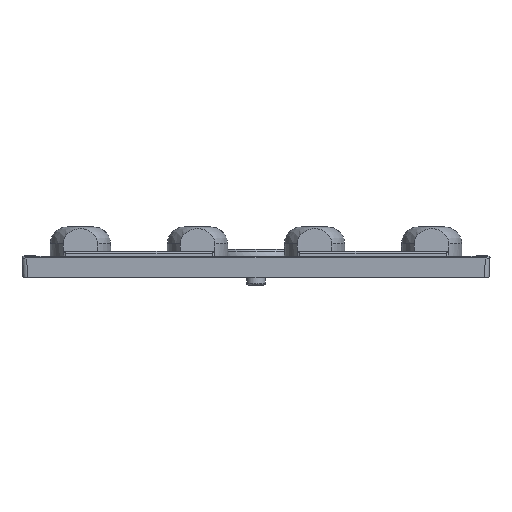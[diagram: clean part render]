
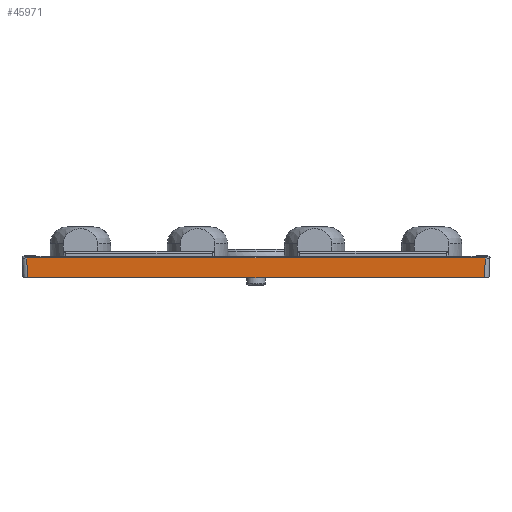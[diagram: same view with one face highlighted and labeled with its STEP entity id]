
A CAD part, front view. The second image highlights one B-rep face of the part: STEP entity #45971.
In plain terms, the highlighted planar face has unit normal (0, -0.999, -0.052).
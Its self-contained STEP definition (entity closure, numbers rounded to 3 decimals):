
#5621=CARTESIAN_POINT('',(24.38,-24.879,0.));
#5622=VERTEX_POINT('',#5621);
#5636=CARTESIAN_POINT('',(-24.38,-24.879,0.));
#5641=DIRECTION('',(1.,0.,0.));
#5646=VECTOR('',#5641,1.);
#5651=LINE('',#5636,#5646);
#5656=CARTESIAN_POINT('',(-24.38,-24.879,0.));
#5657=VERTEX_POINT('',#5656);
#5661=EDGE_CURVE('',#5657,#5622,#5651,.T.);
#45796=CARTESIAN_POINT('',(24.49,-24.989,2.09));
#45797=VERTEX_POINT('',#45796);
#45811=CARTESIAN_POINT('',(24.38,-24.879,0.));
#45816=DIRECTION('',(0.052,-0.052,0.997));
#45821=VECTOR('',#45816,1.);
#45826=LINE('',#45811,#45821);
#45831=EDGE_CURVE('',#5622,#45797,#45826,.T.);
#45861=DIRECTION('',(0.,-0.999,-0.052));
#45866=CARTESIAN_POINT('',(-24.49,-24.989,2.09));
#45871=DIRECTION('',(0.,0.052,-0.999));
#45876=AXIS2_PLACEMENT_3D('',#45866,#45861,#45871);
#45881=PLANE('',#45876);
#45886=ORIENTED_EDGE('',*,*,#45831,.T.);
#45891=CARTESIAN_POINT('',(24.49,-24.989,2.09));
#45896=DIRECTION('',(-1.,0.,0.));
#45901=VECTOR('',#45896,1.);
#45906=LINE('',#45891,#45901);
#45911=CARTESIAN_POINT('',(-24.49,-24.989,2.09));
#45912=VERTEX_POINT('',#45911);
#45916=EDGE_CURVE('',#45797,#45912,#45906,.T.);
#45921=ORIENTED_EDGE('',*,*,#45916,.T.);
#45926=CARTESIAN_POINT('',(-24.49,-24.989,2.09));
#45931=DIRECTION('',(0.052,0.052,-0.997));
#45936=VECTOR('',#45931,1.);
#45941=LINE('',#45926,#45936);
#45946=EDGE_CURVE('',#45912,#5657,#45941,.T.);
#45951=ORIENTED_EDGE('',*,*,#45946,.T.);
#45956=ORIENTED_EDGE('',*,*,#5661,.T.);
#45961=EDGE_LOOP('',(#45886,#45921,#45951,#45956));
#45966=FACE_OUTER_BOUND('',#45961,.T.);
#45971=ADVANCED_FACE('',(#45966),#45881,.T.);
